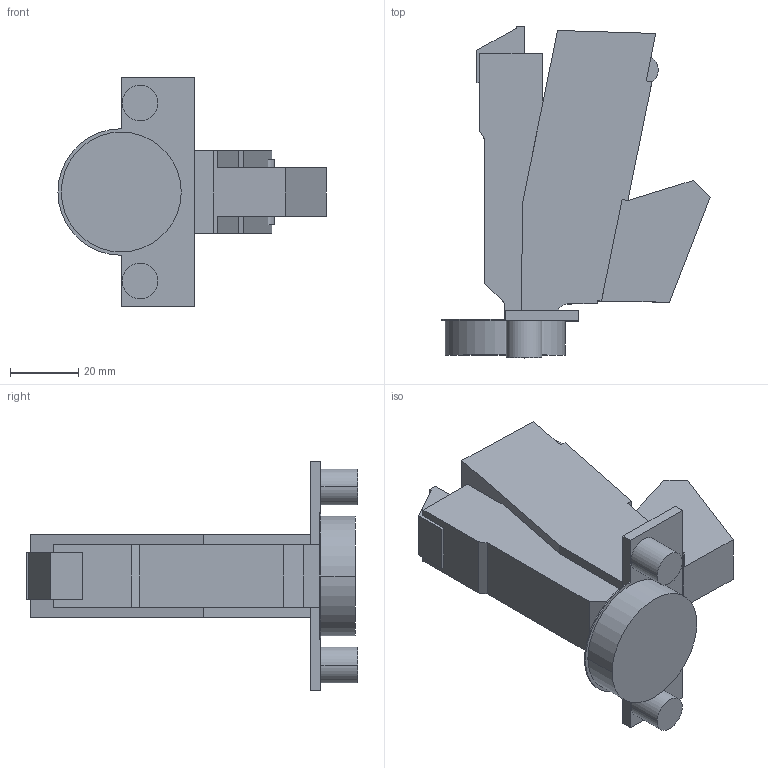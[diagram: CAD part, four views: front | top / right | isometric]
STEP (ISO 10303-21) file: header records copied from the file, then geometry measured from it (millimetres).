
FILE_DESCRIPTION (( 'STEP AP214' ), '1' );
FILE_NAME ('Scharnier TS Click-on 160° H_BB, K95_Dübel.step', '2010-12-13T10:15:53', ( 'grass' ), ( '' ), 'SwSTEP 2.0', 'SolidWorks 2010', '' );
FILE_SCHEMA (( 'AUTOMOTIVE_DESIGN' ));
Length unit declared in the file: millimetre
Products named in the file (1): Scharnier TS Click-on 160° H_BB, K95_Dübel
Bounding box: 78.32 x 96.89 x 67 mm (x, y, z)
Volume: 101558.7 mm3; surface area: 21103 mm2
Topology: 1 solids, 2 shells, 71 faces, 182 edges, 120 vertices
Faces by surface type: plane 57, cylinder 14
Entity records: 2163 total; most frequent: CARTESIAN_POINT 377, ORIENTED_EDGE 364, DIRECTION 352, EDGE_CURVE 182, VECTOR 154, LINE 154, VERTEX_POINT 120, AXIS2_PLACEMENT_3D 99
